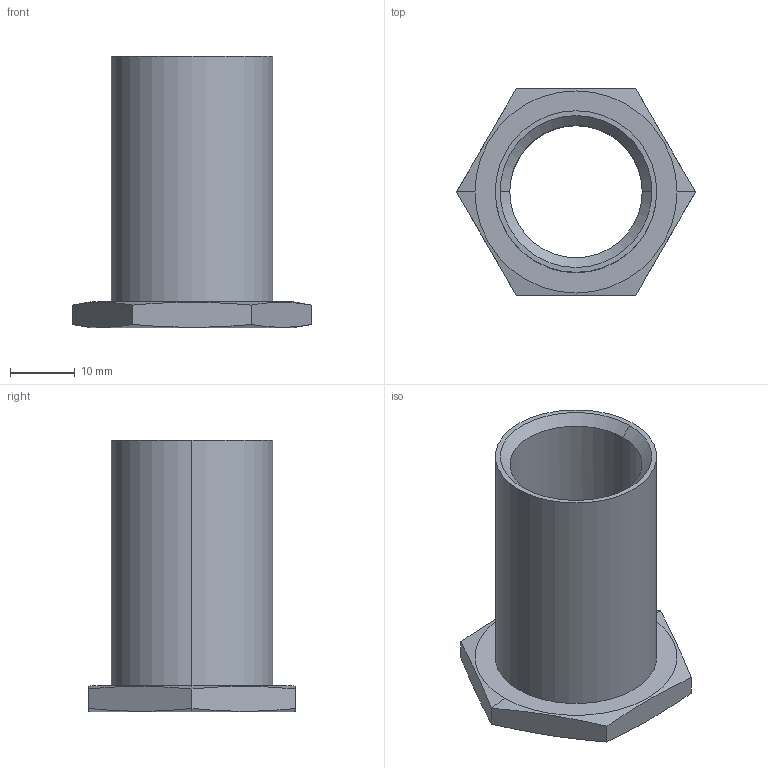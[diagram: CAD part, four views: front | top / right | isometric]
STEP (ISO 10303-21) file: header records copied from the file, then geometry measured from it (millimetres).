
FILE_DESCRIPTION (( 'STEP AP214' ), '1' );
FILE_NAME ('2.TD.005.STEP', '2024-07-11T15:04:54', ( '' ), ( '' ), 'SwSTEP 2.0', 'SolidWorks 2021', '' );
FILE_SCHEMA (( 'AUTOMOTIVE_DESIGN' ));
Length unit declared in the file: millimetre
Products named in the file (1): 2.TD.005
Bounding box: 36.95 x 32 x 42 mm (x, y, z)
Volume: 8001 mm3; surface area: 7371.4 mm2
Topology: 1 solids, 1 shells, 32 faces, 91 edges, 62 vertices
Faces by surface type: cylinder 11, plane 10, cone 8, bspline 3
Entity records: 2003 total; most frequent: CARTESIAN_POINT 1145, ORIENTED_EDGE 182, DIRECTION 116, EDGE_CURVE 91, VERTEX_POINT 62, AXIS2_PLACEMENT_3D 45, EDGE_LOOP 35, FACE_OUTER_BOUND 32
